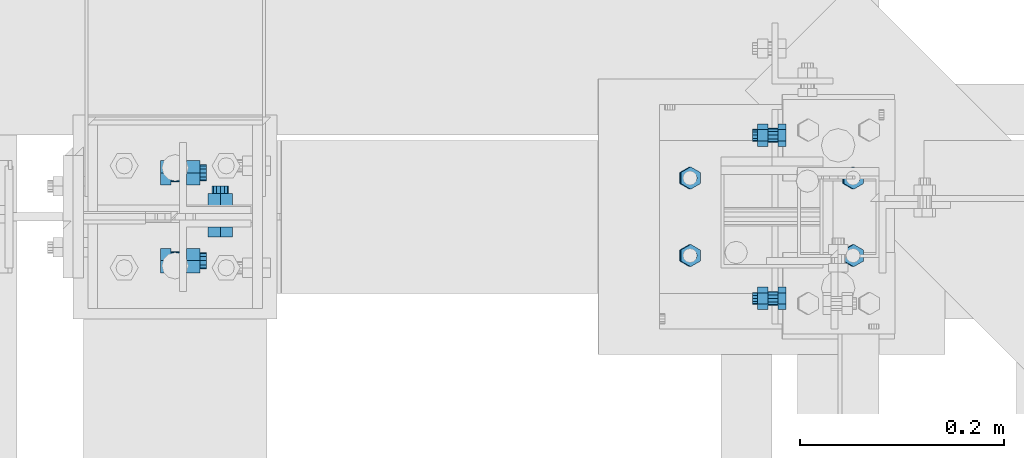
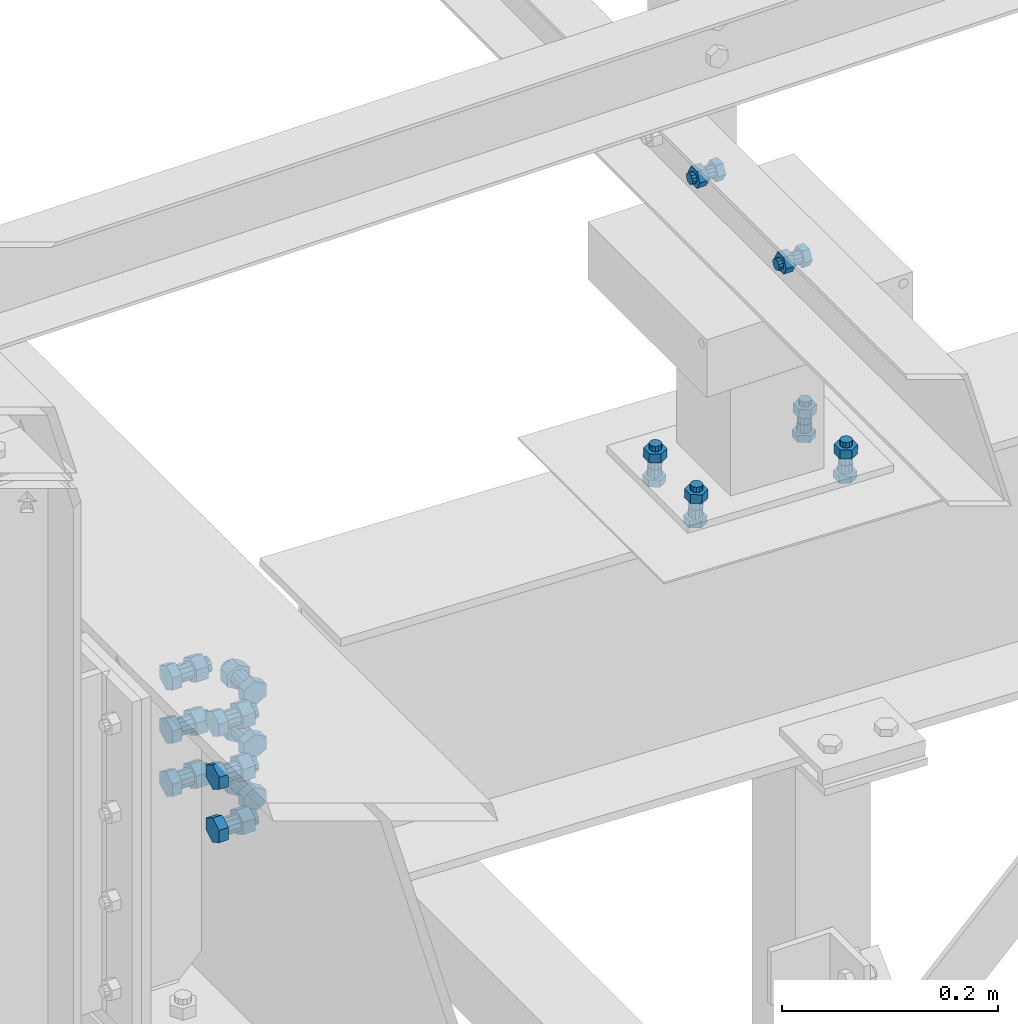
# One storey, part 3 of 3134: 5 mechanical fasteners, 3 elements without a shape of their own.
"""IFC2X3 building model written with IfcOpenShell, lengths in millimetres."""

from ifc_helpers import new_model, si_unit, frame, origin_with_axes, place, context, subcontext, project, spatial, faceted_brep, source, transform, mapped, material, type_object, element, aggregate, save


model = new_model("IFC2X3")

# Units and contexts
model_context = context("Model", 3, precision=1e-05, world=origin_with_axes())
body_context = subcontext(model_context, "Body", "Model", "MODEL_VIEW")
ifc_project = project(units=[si_unit("LENGTHUNIT", "METRE", prefix="MILLI"), si_unit("AREAUNIT", "SQUARE_METRE"), si_unit("VOLUMEUNIT", "CUBIC_METRE"), si_unit("MASSUNIT", "GRAM", prefix="KILO"), si_unit("TIMEUNIT", "SECOND"), si_unit("PLANEANGLEUNIT", "RADIAN"), si_unit("SOLIDANGLEUNIT", "STERADIAN"), si_unit("THERMODYNAMICTEMPERATUREUNIT", "DEGREE_CELSIUS"), si_unit("LUMINOUSINTENSITYUNIT", "LUMEN")], contexts=[model_context])

# Site, building, storey
site_placement = place(None, origin_with_axes())
site = spatial("IfcSite", under=ifc_project, at=site_placement, CompositionType="ELEMENT")
building_placement = place(site_placement, origin_with_axes())
building = spatial("IfcBuilding", under=site, at=building_placement, Name="Undefined", CompositionType="ELEMENT")
storey_placement = place(building_placement, origin_with_axes())
storey = spatial("IfcBuildingStorey", under=building, at=storey_placement, Name="Undefined", CompositionType="ELEMENT", Elevation=0.0)

# Assembly, mechanical fastener
assembly_1_placement = place(storey_placement, origin_with_axes())
assembly_1 = element("IfcElementAssembly", 1, at=assembly_1_placement, inside=storey, AssemblyPlace="NOTDEFINED", PredefinedType="RIGID_FRAME")
ifc_material = material(Name="8.8")
mechanical_fastener_type = type_object("IfcMechanicalFastenerType", Name="Bolt assembly")
shared_shape_1 = source(origin_with_axes(), body_context, "Body", "Brep", [
    faceted_brep([(10.9696551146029, -14.0, 0.0), (5.48482755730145, -14.0, 9.5), (-5.48482755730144, -14.0, 9.5), (-10.9696551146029, -14.0, 1.34339530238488e-15), (-5.48482755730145, -14.0, -9.5), (5.48482755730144, -14.0, -9.50000000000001), (5.48482755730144, -6.0, -9.50000000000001), (-5.48482755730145, -6.0, -9.5), (-10.9696551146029, -6.0, 1.34339530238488e-15), (-5.48482755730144, -6.0, 9.5), (5.48482755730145, -6.0, 9.5), (10.9696551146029, -6.0, 0.0), (6.0, -6.0, 0.0), (5.19615242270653, -6.0, 3.00000000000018), (2.99999999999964, -6.0, 5.19615242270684), (-6.21801588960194e-13, -6.0, 6.0), (-3.00000000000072, -6.0, 5.19615242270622), (-5.19615242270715, -6.0, 2.9999999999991), (-6.0, -6.0, -1.24360317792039e-12), (-5.19615242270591, -6.0, -3.00000000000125), (-2.99999999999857, -6.0, -5.19615242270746), (1.85874342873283e-12, -6.0, -6.0), (3.00000000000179, -6.0, -5.1961524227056), (5.19615242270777, -6.0, -2.99999999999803), (5.19615242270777, 19.0, -2.99999999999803), (3.00000000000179, 19.0, -5.1961524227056), (1.85874342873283e-12, 19.0, -6.0), (-2.99999999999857, 19.0, -5.19615242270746), (-5.19615242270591, 19.0, -3.00000000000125), (-6.0, 19.0, -1.24360317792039e-12), (-5.19615242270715, 19.0, 2.9999999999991), (-3.00000000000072, 19.0, 5.19615242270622), (-6.21801588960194e-13, 19.0, 6.0), (2.99999999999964, 19.0, 5.19615242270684), (5.19615242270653, 19.0, 3.00000000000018), (6.0, 19.0, 0.0), (10.9696551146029, 4.00000000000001, 0.0), (5.48482755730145, 4.00000000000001, 9.5), (-5.48482755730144, 4.00000000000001, 9.5), (-10.9696551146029, 4.00000000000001, 1.34339530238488e-15), (-5.48482755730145, 4.00000000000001, -9.5), (5.48482755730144, 4.00000000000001, -9.50000000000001), (5.48482755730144, 14.0, -9.50000000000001), (-5.48482755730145, 14.0, -9.5), (-10.9696551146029, 14.0, 1.34339530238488e-15), (-5.48482755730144, 14.0, 9.5), (5.48482755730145, 14.0, 9.5), (10.9696551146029, 14.0, 0.0)], [[[0, 1, 2, 3, 4, 5]], [[6, 7, 8, 9, 10, 11]], [[0, 11, 10, 1]], [[1, 10, 9, 2]], [[2, 9, 8, 3]], [[3, 8, 7, 4]], [[4, 7, 6, 5]], [[5, 6, 11, 0]], [[12, 13, 14, 15, 16, 17, 18, 19, 20, 21, 22, 23]], [[24, 25, 26, 27, 28, 29, 30, 31, 32, 33, 34, 35]], [[12, 35, 34, 13]], [[13, 34, 33, 14]], [[14, 33, 32, 15]], [[15, 32, 31, 16]], [[16, 31, 30, 17]], [[17, 30, 29, 18]], [[18, 29, 28, 19]], [[19, 28, 27, 20]], [[20, 27, 26, 21]], [[21, 26, 25, 22]], [[22, 25, 24, 23]], [[23, 24, 35, 12]], [[36, 37, 38, 39, 40, 41]], [[42, 43, 44, 45, 46, 47]], [[36, 47, 46, 37]], [[37, 46, 45, 38]], [[38, 45, 44, 39]], [[39, 44, 43, 40]], [[40, 43, 42, 41]], [[41, 42, 47, 36]]]),
    faceted_brep([(7.0, -0.1, 0.0), (6.06217782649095, -0.1, 3.50000000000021), (3.49999999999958, -0.1, 6.06217782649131), (-7.25435187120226e-13, -0.1, 7.0), (-3.50000000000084, -0.1, 6.06217782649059), (-6.06217782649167, -0.1, 3.49999999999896), (-7.0, -0.1, -1.45087037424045e-12), (-6.06217782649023, -0.1, -3.50000000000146), (-3.49999999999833, -0.1, -6.06217782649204), (2.1685340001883e-12, -0.1, -7.0), (3.50000000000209, -0.1, -6.06217782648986), (6.0621778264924, -0.1, -3.4999999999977), (6.0621778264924, 4.00000000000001, -3.4999999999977), (3.50000000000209, 4.00000000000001, -6.06217782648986), (2.1685340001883e-12, 4.00000000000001, -7.0), (-3.49999999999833, 4.00000000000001, -6.06217782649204), (-6.06217782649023, 4.00000000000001, -3.50000000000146), (-7.0, 4.00000000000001, -1.45087037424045e-12), (-6.06217782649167, 4.00000000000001, 3.49999999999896), (-3.50000000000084, 4.00000000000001, 6.06217782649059), (-7.25435187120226e-13, 4.00000000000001, 7.0), (3.49999999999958, 4.00000000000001, 6.06217782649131), (6.06217782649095, 4.00000000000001, 3.50000000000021), (7.0, 4.00000000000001, 0.0), (7.0, -5.9, 0.0), (6.06217782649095, -5.9, 3.50000000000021), (3.49999999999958, -5.9, 6.06217782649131), (-7.25435187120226e-13, -5.9, 7.0), (-3.50000000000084, -5.9, 6.06217782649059), (-6.06217782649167, -5.9, 3.49999999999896), (-7.0, -5.9, -1.45087037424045e-12), (-6.06217782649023, -5.9, -3.50000000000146), (-3.49999999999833, -5.9, -6.06217782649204), (2.1685340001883e-12, -5.9, -7.0), (3.50000000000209, -5.9, -6.06217782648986), (6.0621778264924, -5.9, -3.4999999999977), (6.0621778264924, 0.0999999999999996, -3.4999999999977), (3.50000000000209, 0.0999999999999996, -6.06217782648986), (2.1685340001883e-12, 0.0999999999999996, -7.0), (-3.49999999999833, 0.0999999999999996, -6.06217782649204), (-6.06217782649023, 0.0999999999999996, -3.50000000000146), (-7.0, 0.0999999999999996, -1.45087037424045e-12), (-6.06217782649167, 0.0999999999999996, 3.49999999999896), (-3.50000000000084, 0.0999999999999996, 6.06217782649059), (-7.25435187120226e-13, 0.0999999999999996, 7.0), (3.49999999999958, 0.0999999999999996, 6.06217782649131), (6.06217782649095, 0.0999999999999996, 3.50000000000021), (7.0, 0.0999999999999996, 0.0)], [[[0, 1, 2, 3, 4, 5, 6, 7, 8, 9, 10, 11]], [[12, 13, 14, 15, 16, 17, 18, 19, 20, 21, 22, 23]], [[0, 23, 22, 1]], [[1, 22, 21, 2]], [[2, 21, 20, 3]], [[3, 20, 19, 4]], [[4, 19, 18, 5]], [[5, 18, 17, 6]], [[6, 17, 16, 7]], [[7, 16, 15, 8]], [[8, 15, 14, 9]], [[9, 14, 13, 10]], [[10, 13, 12, 11]], [[11, 12, 23, 0]], [[24, 25, 26, 27, 28, 29, 30, 31, 32, 33, 34, 35]], [[36, 37, 38, 39, 40, 41, 42, 43, 44, 45, 46, 47]], [[24, 47, 46, 25]], [[25, 46, 45, 26]], [[26, 45, 44, 27]], [[27, 44, 43, 28]], [[28, 43, 42, 29]], [[29, 42, 41, 30]], [[30, 41, 40, 31]], [[31, 40, 39, 32]], [[32, 39, 38, 33]], [[33, 38, 37, 34]], [[34, 37, 36, 35]], [[35, 36, 47, 24]]]),
])
mechanical_fastener_1_placement = place(assembly_1_placement, frame((585.0, 10850.0, 4300.0), z_axis=(0.0, 0.0, 1.0), x_axis=(0.0, 1.0, 0.0)))
mechanical_fastener_1 = element("IfcMechanicalFastener", 2, at=mechanical_fastener_1_placement, type_object=mechanical_fastener_type, material=ifc_material, Name="Bolt assembly", NominalDiameter=12.0, NominalLength=25.0, context=body_context, shape_type="MappedRepresentation", body=[
    mapped(shared_shape_1, transform((0.0, 0.0, 0.0))),
    mapped(shared_shape_1, transform((160.0, 0.0, 0.0))),
])

assembly_2_placement = place(storey_placement, origin_with_axes())
assembly_2 = element("IfcElementAssembly", 3, at=assembly_2_placement, inside=storey, AssemblyPlace="NOTDEFINED", PredefinedType="RIGID_FRAME")
shared_shape_2 = source(origin_with_axes(), body_context, "Body", "Brep", [
    faceted_brep([(13.856406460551, -18.5936482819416, 0.0), (6.92820323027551, -18.5936482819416, 12.0), (-6.92820323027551, -18.5936482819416, 12.0), (-13.856406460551, -18.5936482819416, 1.69692038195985e-15), (-6.92820323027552, -18.5936482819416, -12.0), (6.9282032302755, -18.5936482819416, -12.0), (6.9282032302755, -8.59364828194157, -12.0), (-6.92820323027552, -8.59364828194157, -12.0), (-13.856406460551, -8.59364828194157, 1.69692038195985e-15), (-6.92820323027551, -8.59364828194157, 12.0), (6.92820323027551, -8.59364828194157, 12.0), (13.856406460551, -8.59364828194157, 0.0), (8.0, -8.59364828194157, 0.0), (6.92820323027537, -8.59364828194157, 4.00000000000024), (3.99999999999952, -8.59364828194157, 6.92820323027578), (-8.29068785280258e-13, -8.59364828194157, 8.0), (-4.00000000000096, -8.59364828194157, 6.92820323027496), (-6.9282032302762, -8.59364828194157, 3.99999999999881), (-8.0, -8.59364828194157, -1.65813757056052e-12), (-6.92820323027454, -8.59364828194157, -4.00000000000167), (-3.99999999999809, -8.59364828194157, -6.92820323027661), (2.47832457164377e-12, -8.59364828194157, -8.0), (4.00000000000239, -8.59364828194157, -6.92820323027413), (6.92820323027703, -8.59364828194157, -3.99999999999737), (6.92820323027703, 26.4063517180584, -3.99999999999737), (4.00000000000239, 26.4063517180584, -6.92820323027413), (2.47832457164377e-12, 26.4063517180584, -8.0), (-3.99999999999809, 26.4063517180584, -6.92820323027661), (-6.92820323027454, 26.4063517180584, -4.00000000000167), (-8.0, 26.4063517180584, -1.65813757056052e-12), (-6.9282032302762, 26.4063517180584, 3.99999999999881), (-4.00000000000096, 26.4063517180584, 6.92820323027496), (-8.29068785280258e-13, 26.4063517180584, 8.0), (3.99999999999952, 26.4063517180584, 6.92820323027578), (6.92820323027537, 26.4063517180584, 4.00000000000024), (8.0, 26.4063517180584, 0.0), (13.856406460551, 7.0, 0.0), (6.92820323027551, 7.0, 12.0), (-6.92820323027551, 7.0, 12.0), (-13.856406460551, 7.0, 1.69692038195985e-15), (-6.92820323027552, 7.0, -12.0), (6.9282032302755, 7.0, -12.0), (6.9282032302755, 20.0, -12.0), (-6.92820323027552, 20.0, -12.0), (-13.856406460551, 20.0, 1.69692038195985e-15), (-6.92820323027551, 20.0, 12.0), (6.92820323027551, 20.0, 12.0), (13.856406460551, 20.0, 0.0)], [[[0, 1, 2, 3, 4, 5]], [[6, 7, 8, 9, 10, 11]], [[0, 11, 10, 1]], [[1, 10, 9, 2]], [[2, 9, 8, 3]], [[3, 8, 7, 4]], [[4, 7, 6, 5]], [[5, 6, 11, 0]], [[12, 13, 14, 15, 16, 17, 18, 19, 20, 21, 22, 23]], [[24, 25, 26, 27, 28, 29, 30, 31, 32, 33, 34, 35]], [[12, 35, 34, 13]], [[13, 34, 33, 14]], [[14, 33, 32, 15]], [[15, 32, 31, 16]], [[16, 31, 30, 17]], [[17, 30, 29, 18]], [[18, 29, 28, 19]], [[19, 28, 27, 20]], [[20, 27, 26, 21]], [[21, 26, 25, 22]], [[22, 25, 24, 23]], [[23, 24, 35, 12]], [[36, 37, 38, 39, 40, 41]], [[42, 43, 44, 45, 46, 47]], [[36, 47, 46, 37]], [[37, 46, 45, 38]], [[38, 45, 44, 39]], [[39, 44, 43, 40]], [[40, 43, 42, 41]], [[41, 42, 47, 36]]]),
    faceted_brep([(9.0, -8.49364828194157, 0.0), (7.79422863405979, -8.49364828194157, 4.50000000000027), (4.49999999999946, -8.49364828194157, 7.79422863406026), (-9.3270238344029e-13, -8.49364828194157, 9.0), (-4.50000000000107, -8.49364828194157, 7.79422863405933), (-7.79422863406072, -8.49364828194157, 4.49999999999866), (-9.0, -8.49364828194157, -1.86540476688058e-12), (-7.79422863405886, -8.49364828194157, -4.50000000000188), (-4.49999999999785, -8.49364828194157, -7.79422863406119), (2.78811514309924e-12, -8.49364828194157, -9.0), (4.50000000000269, -8.49364828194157, -7.7942286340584), (7.79422863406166, -8.49364828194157, -4.49999999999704), (7.79422863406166, 0.10635209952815, -4.49999999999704), (4.50000000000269, 0.10635209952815, -7.7942286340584), (2.78811514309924e-12, 0.10635209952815, -9.0), (-4.49999999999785, 0.10635209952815, -7.79422863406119), (-7.79422863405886, 0.10635209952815, -4.50000000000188), (-9.0, 0.10635209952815, -1.86540476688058e-12), (-7.79422863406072, 0.10635209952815, 4.49999999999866), (-4.50000000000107, 0.10635209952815, 7.79422863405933), (-9.3270238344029e-13, 0.10635209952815, 9.0), (4.49999999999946, 0.10635209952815, 7.79422863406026), (7.79422863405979, 0.10635209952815, 4.50000000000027), (9.0, 0.10635209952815, 0.0), (9.0, -0.1, 0.0), (7.79422863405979, -0.1, 4.50000000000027), (4.49999999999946, -0.1, 7.79422863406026), (-9.3270238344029e-13, -0.1, 9.0), (-4.50000000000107, -0.1, 7.79422863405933), (-7.79422863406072, -0.1, 4.49999999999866), (-9.0, -0.1, -1.86540476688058e-12), (-7.79422863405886, -0.1, -4.50000000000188), (-4.49999999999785, -0.1, -7.79422863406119), (2.78811514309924e-12, -0.1, -9.0), (4.50000000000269, -0.1, -7.7942286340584), (7.79422863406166, -0.1, -4.49999999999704), (7.79422863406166, 7.0, -4.49999999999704), (4.50000000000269, 7.0, -7.7942286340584), (2.78811514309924e-12, 7.0, -9.0), (-4.49999999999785, 7.0, -7.79422863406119), (-7.79422863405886, 7.0, -4.50000000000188), (-9.0, 7.0, -1.86540476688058e-12), (-7.79422863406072, 7.0, 4.49999999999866), (-4.50000000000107, 7.0, 7.79422863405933), (-9.3270238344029e-13, 7.0, 9.0), (4.49999999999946, 7.0, 7.79422863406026), (7.79422863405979, 7.0, 4.50000000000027), (9.0, 7.0, 0.0)], [[[0, 1, 2, 3, 4, 5, 6, 7, 8, 9, 10, 11]], [[12, 13, 14, 15, 16, 17, 18, 19, 20, 21, 22, 23]], [[0, 23, 22, 1]], [[1, 22, 21, 2]], [[2, 21, 20, 3]], [[3, 20, 19, 4]], [[4, 19, 18, 5]], [[5, 18, 17, 6]], [[6, 17, 16, 7]], [[7, 16, 15, 8]], [[8, 15, 14, 9]], [[9, 14, 13, 10]], [[10, 13, 12, 11]], [[11, 12, 23, 0]], [[24, 25, 26, 27, 28, 29, 30, 31, 32, 33, 34, 35]], [[36, 37, 38, 39, 40, 41, 42, 43, 44, 45, 46, 47]], [[24, 47, 46, 25]], [[25, 46, 45, 26]], [[26, 45, 44, 27]], [[27, 44, 43, 28]], [[28, 43, 42, 29]], [[29, 42, 41, 30]], [[30, 41, 40, 31]], [[31, 40, 39, 32]], [[32, 39, 38, 33]], [[33, 38, 37, 34]], [[34, 37, 36, 35]], [[35, 36, 47, 24]]]),
])
mechanical_fastener_2_placement = place(assembly_2_placement, frame((4.29364809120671, 10973.04, 3841.86727512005), z_axis=(0.0, 1.0, 0.0), x_axis=(0.0, 0.0, 1.0)))
mechanical_fastener_2 = element("IfcMechanicalFastener", 4, at=mechanical_fastener_2_placement, type_object=mechanical_fastener_type, material=ifc_material, Name="Bolt assembly", NominalDiameter=16.0, NominalLength=35.0, context=body_context, shape_type="MappedRepresentation", body=[
    mapped(shared_shape_2, transform((0.0, 0.0, 0.0))),
    mapped(shared_shape_2, transform((59.9999999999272, 0.0, 5.40239852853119e-10))),
    mapped(shared_shape_2, transform((120.0, 0.0, 0.0))),
])
aggregate(assembly_2, [mechanical_fastener_2])

# Assembly, mechanical fasteners
assembly_3_placement = place(storey_placement, origin_with_axes())
assembly_3 = element("IfcElementAssembly", 5, at=assembly_3_placement, inside=storey, AssemblyPlace="NOTDEFINED", PredefinedType="RIGID_FRAME")
mechanical_fastener_3_placement = place(assembly_3_placement, frame((4.29364809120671, 10886.96, 3841.86727512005), z_axis=(0.0, 1.0, 0.0), x_axis=(0.0, 0.0, 1.0)))
mechanical_fastener_3 = element("IfcMechanicalFastener", 6, at=mechanical_fastener_3_placement, type_object=mechanical_fastener_type, material=ifc_material, Name="Bolt assembly", NominalDiameter=16.0, NominalLength=35.0, context=body_context, shape_type="MappedRepresentation", body=[
    mapped(shared_shape_2, transform((0.0, 0.0, 0.0))),
    mapped(shared_shape_2, transform((59.9999999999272, 0.0, 5.40239852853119e-10))),
    mapped(shared_shape_2, transform((120.0, 0.0, 0.0))),
])
shared_shape_3 = source(origin_with_axes(), body_context, "Body", "Brep", [
    faceted_brep([(13.856406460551, -20.0400000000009, 0.0), (6.92820323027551, -20.0400000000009, 12.0), (-6.92820323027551, -20.0400000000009, 12.0), (-13.856406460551, -20.0400000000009, 1.69692038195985e-15), (-6.92820323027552, -20.0400000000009, -12.0), (6.9282032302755, -20.0400000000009, -12.0), (6.9282032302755, -10.0400000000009, -12.0), (-6.92820323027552, -10.0400000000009, -12.0), (-13.856406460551, -10.0400000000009, 1.69692038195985e-15), (-6.92820323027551, -10.0400000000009, 12.0), (6.92820323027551, -10.0400000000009, 12.0), (13.856406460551, -10.0400000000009, 0.0), (8.0, -10.0400000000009, 0.0), (6.92820323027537, -10.0400000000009, 4.00000000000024), (3.99999999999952, -10.0400000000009, 6.92820323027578), (-8.29068785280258e-13, -10.0400000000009, 8.0), (-4.00000000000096, -10.0400000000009, 6.92820323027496), (-6.9282032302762, -10.0400000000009, 3.99999999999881), (-8.0, -10.0400000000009, -1.65813757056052e-12), (-6.92820323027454, -10.0400000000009, -4.00000000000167), (-3.99999999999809, -10.0400000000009, -6.92820323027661), (2.47832457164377e-12, -10.0400000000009, -8.0), (4.00000000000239, -10.0400000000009, -6.92820323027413), (6.92820323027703, -10.0400000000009, -3.99999999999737), (6.92820323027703, 29.9599999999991, -3.99999999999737), (4.00000000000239, 29.9599999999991, -6.92820323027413), (2.47832457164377e-12, 29.9599999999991, -8.0), (-3.99999999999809, 29.9599999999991, -6.92820323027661), (-6.92820323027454, 29.9599999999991, -4.00000000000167), (-8.0, 29.9599999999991, -1.65813757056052e-12), (-6.9282032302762, 29.9599999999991, 3.99999999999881), (-4.00000000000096, 29.9599999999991, 6.92820323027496), (-8.29068785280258e-13, 29.9599999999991, 8.0), (3.99999999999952, 29.9599999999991, 6.92820323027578), (6.92820323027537, 29.9599999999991, 4.00000000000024), (8.0, 29.9599999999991, 0.0), (13.856406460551, 10.0400000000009, 0.0), (6.92820323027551, 10.0400000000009, 12.0), (-6.92820323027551, 10.0400000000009, 12.0), (-13.856406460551, 10.0400000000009, 1.69692038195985e-15), (-6.92820323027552, 10.0400000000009, -12.0), (6.9282032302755, 10.0400000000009, -12.0), (6.9282032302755, 23.0400000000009, -12.0), (-6.92820323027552, 23.0400000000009, -12.0), (-13.856406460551, 23.0400000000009, 1.69692038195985e-15), (-6.92820323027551, 23.0400000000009, 12.0), (6.92820323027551, 23.0400000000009, 12.0), (13.856406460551, 23.0400000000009, 0.0)], [[[0, 1, 2, 3, 4, 5]], [[6, 7, 8, 9, 10, 11]], [[0, 11, 10, 1]], [[1, 10, 9, 2]], [[2, 9, 8, 3]], [[3, 8, 7, 4]], [[4, 7, 6, 5]], [[5, 6, 11, 0]], [[12, 13, 14, 15, 16, 17, 18, 19, 20, 21, 22, 23]], [[24, 25, 26, 27, 28, 29, 30, 31, 32, 33, 34, 35]], [[12, 35, 34, 13]], [[13, 34, 33, 14]], [[14, 33, 32, 15]], [[15, 32, 31, 16]], [[16, 31, 30, 17]], [[17, 30, 29, 18]], [[18, 29, 28, 19]], [[19, 28, 27, 20]], [[20, 27, 26, 21]], [[21, 26, 25, 22]], [[22, 25, 24, 23]], [[23, 24, 35, 12]], [[36, 37, 38, 39, 40, 41]], [[42, 43, 44, 45, 46, 47]], [[36, 47, 46, 37]], [[37, 46, 45, 38]], [[38, 45, 44, 39]], [[39, 44, 43, 40]], [[40, 43, 42, 41]], [[41, 42, 47, 36]]]),
    faceted_brep([(9.0, -3.04999995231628, 0.0), (7.79422863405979, -3.04999995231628, 4.50000000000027), (4.49999999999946, -3.04999995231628, 7.79422863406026), (-9.3270238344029e-13, -3.04999995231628, 9.0), (-4.50000000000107, -3.04999995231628, 7.79422863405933), (-7.79422863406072, -3.04999995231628, 4.49999999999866), (-9.0, -3.04999995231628, -1.86540476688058e-12), (-7.79422863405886, -3.04999995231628, -4.50000000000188), (-4.49999999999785, -3.04999995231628, -7.79422863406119), (2.78811514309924e-12, -3.04999995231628, -9.0), (4.50000000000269, -3.04999995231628, -7.7942286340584), (7.79422863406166, -3.04999995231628, -4.49999999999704), (7.79422863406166, 3.04999995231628, -4.49999999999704), (4.50000000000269, 3.04999995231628, -7.7942286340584), (2.78811514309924e-12, 3.04999995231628, -9.0), (-4.49999999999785, 3.04999995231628, -7.79422863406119), (-7.79422863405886, 3.04999995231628, -4.50000000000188), (-9.0, 3.04999995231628, -1.86540476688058e-12), (-7.79422863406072, 3.04999995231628, 4.49999999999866), (-4.50000000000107, 3.04999995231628, 7.79422863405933), (-9.3270238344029e-13, 3.04999995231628, 9.0), (4.49999999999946, 3.04999995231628, 7.79422863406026), (7.79422863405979, 3.04999995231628, 4.50000000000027), (9.0, 3.04999995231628, 0.0), (9.0, -9.94000000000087, 0.0), (7.79422863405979, -9.94000000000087, 4.50000000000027), (4.49999999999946, -9.94000000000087, 7.79422863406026), (-9.3270238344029e-13, -9.94000000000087, 9.0), (-4.50000000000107, -9.94000000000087, 7.79422863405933), (-7.79422863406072, -9.94000000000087, 4.49999999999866), (-9.0, -9.94000000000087, -1.86540476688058e-12), (-7.79422863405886, -9.94000000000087, -4.50000000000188), (-4.49999999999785, -9.94000000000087, -7.79422863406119), (2.78811514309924e-12, -9.94000000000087, -9.0), (4.50000000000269, -9.94000000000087, -7.7942286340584), (7.79422863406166, -9.94000000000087, -4.49999999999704), (7.79422863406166, -2.94000000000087, -4.49999999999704), (4.50000000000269, -2.94000000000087, -7.7942286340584), (2.78811514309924e-12, -2.94000000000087, -9.0), (-4.49999999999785, -2.94000000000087, -7.79422863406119), (-7.79422863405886, -2.94000000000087, -4.50000000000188), (-9.0, -2.94000000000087, -1.86540476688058e-12), (-7.79422863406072, -2.94000000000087, 4.49999999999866), (-4.50000000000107, -2.94000000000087, 7.79422863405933), (-9.3270238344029e-13, -2.94000000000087, 9.0), (4.49999999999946, -2.94000000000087, 7.79422863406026), (7.79422863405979, -2.94000000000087, 4.50000000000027), (9.0, -2.94000000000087, 0.0), (9.0, 2.94000000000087, 0.0), (7.79422863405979, 2.94000000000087, 4.50000000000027), (4.49999999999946, 2.94000000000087, 7.79422863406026), (-9.3270238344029e-13, 2.94000000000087, 9.0), (-4.50000000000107, 2.94000000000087, 7.79422863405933), (-7.79422863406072, 2.94000000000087, 4.49999999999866), (-9.0, 2.94000000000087, -1.86540476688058e-12), (-7.79422863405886, 2.94000000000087, -4.50000000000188), (-4.49999999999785, 2.94000000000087, -7.79422863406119), (2.78811514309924e-12, 2.94000000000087, -9.0), (4.50000000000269, 2.94000000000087, -7.7942286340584), (7.79422863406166, 2.94000000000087, -4.49999999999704), (7.79422863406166, 10.0400000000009, -4.49999999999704), (4.50000000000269, 10.0400000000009, -7.7942286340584), (2.78811514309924e-12, 10.0400000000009, -9.0), (-4.49999999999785, 10.0400000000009, -7.79422863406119), (-7.79422863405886, 10.0400000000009, -4.50000000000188), (-9.0, 10.0400000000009, -1.86540476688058e-12), (-7.79422863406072, 10.0400000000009, 4.49999999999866), (-4.50000000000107, 10.0400000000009, 7.79422863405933), (-9.3270238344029e-13, 10.0400000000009, 9.0), (4.49999999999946, 10.0400000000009, 7.79422863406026), (7.79422863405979, 10.0400000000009, 4.50000000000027), (9.0, 10.0400000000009, 0.0)], [[[0, 1, 2, 3, 4, 5, 6, 7, 8, 9, 10, 11]], [[12, 13, 14, 15, 16, 17, 18, 19, 20, 21, 22, 23]], [[0, 23, 22, 1]], [[1, 22, 21, 2]], [[2, 21, 20, 3]], [[3, 20, 19, 4]], [[4, 19, 18, 5]], [[5, 18, 17, 6]], [[6, 17, 16, 7]], [[7, 16, 15, 8]], [[8, 15, 14, 9]], [[9, 14, 13, 10]], [[10, 13, 12, 11]], [[11, 12, 23, 0]], [[24, 25, 26, 27, 28, 29, 30, 31, 32, 33, 34, 35]], [[36, 37, 38, 39, 40, 41, 42, 43, 44, 45, 46, 47]], [[24, 47, 46, 25]], [[25, 46, 45, 26]], [[26, 45, 44, 27]], [[27, 44, 43, 28]], [[28, 43, 42, 29]], [[29, 42, 41, 30]], [[30, 41, 40, 31]], [[31, 40, 39, 32]], [[32, 39, 38, 33]], [[33, 38, 37, 34]], [[34, 37, 36, 35]], [[35, 36, 47, 24]], [[48, 49, 50, 51, 52, 53, 54, 55, 56, 57, 58, 59]], [[60, 61, 62, 63, 64, 65, 66, 67, 68, 69, 70, 71]], [[48, 71, 70, 49]], [[49, 70, 69, 50]], [[50, 69, 68, 51]], [[51, 68, 67, 52]], [[52, 67, 66, 53]], [[53, 66, 65, 54]], [[54, 65, 64, 55]], [[55, 64, 63, 56]], [[56, 63, 62, 57]], [[57, 62, 61, 58]], [[58, 61, 60, 59]], [[59, 60, 71, 48]]]),
])
mechanical_fastener_4_placement = place(assembly_3_placement, frame((44.2936480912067, 10930.0, 3841.86727512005), z_axis=(-1.0, 0.0, 0.0), x_axis=(0.0, 0.0, 1.0)))
mechanical_fastener_4 = element("IfcMechanicalFastener", 7, at=mechanical_fastener_4_placement, type_object=mechanical_fastener_type, material=ifc_material, Name="Bolt assembly", NominalDiameter=16.0, NominalLength=40.0, context=body_context, shape_type="MappedRepresentation", body=[
    mapped(shared_shape_3, transform((0.0, 0.0, 0.0))),
    mapped(shared_shape_3, transform((59.9999999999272, 0.0, 5.40239852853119e-10))),
    mapped(shared_shape_3, transform((120.0, 0.0, 0.0))),
])
aggregate(assembly_3, [mechanical_fastener_3, mechanical_fastener_4])

# Mechanical fastener
shared_shape_4 = source(origin_with_axes(), body_context, "Body", "Brep", [
    faceted_brep([(10.9696551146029, -4.19442685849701, 0.0), (5.48482755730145, -4.19442685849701, 9.5), (-5.48482755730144, -4.19442685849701, 9.5), (-10.9696551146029, -4.19442685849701, 1.34339530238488e-15), (-5.48482755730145, -4.19442685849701, -9.5), (5.48482755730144, -4.19442685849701, -9.50000000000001), (5.48482755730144, 3.80557314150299, -9.50000000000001), (-5.48482755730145, 3.80557314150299, -9.5), (-10.9696551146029, 3.80557314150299, 1.34339530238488e-15), (-5.48482755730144, 3.80557314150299, 9.5), (5.48482755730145, 3.80557314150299, 9.5), (10.9696551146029, 3.80557314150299, 0.0), (6.0, 3.80557314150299, 0.0), (5.19615242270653, 3.80557314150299, 3.00000000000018), (2.99999999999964, 3.80557314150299, 5.19615242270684), (-6.21801588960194e-13, 3.80557314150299, 6.0), (-3.00000000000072, 3.80557314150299, 5.19615242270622), (-5.19615242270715, 3.80557314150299, 2.9999999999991), (-6.0, 3.80557314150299, -1.24360317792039e-12), (-5.19615242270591, 3.80557314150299, -3.00000000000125), (-2.99999999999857, 3.80557314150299, -5.19615242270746), (1.85874342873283e-12, 3.80557314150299, -6.0), (3.00000000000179, 3.80557314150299, -5.1961524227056), (5.19615242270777, 3.80557314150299, -2.99999999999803), (5.19615242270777, 38.805573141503, -2.99999999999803), (3.00000000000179, 38.805573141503, -5.1961524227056), (1.85874342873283e-12, 38.805573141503, -6.0), (-2.99999999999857, 38.805573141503, -5.19615242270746), (-5.19615242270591, 38.805573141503, -3.00000000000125), (-6.0, 38.805573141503, -1.24360317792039e-12), (-5.19615242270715, 38.805573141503, 2.9999999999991), (-3.00000000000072, 38.805573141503, 5.19615242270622), (-6.21801588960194e-13, 38.805573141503, 6.0), (2.99999999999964, 38.805573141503, 5.19615242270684), (5.19615242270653, 38.805573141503, 3.00000000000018), (6.0, 38.805573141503, 0.0), (10.9696551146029, 23.0139082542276, 0.0), (5.48482755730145, 23.0139082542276, 9.5), (-5.48482755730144, 23.0139082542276, 9.5), (-10.9696551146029, 23.0139082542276, 1.34339530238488e-15), (-5.48482755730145, 23.0139082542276, -9.5), (5.48482755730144, 23.0139082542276, -9.50000000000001), (5.48482755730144, 33.0139082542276, -9.50000000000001), (-5.48482755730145, 33.0139082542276, -9.5), (-10.9696551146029, 33.0139082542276, 1.34339530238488e-15), (-5.48482755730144, 33.0139082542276, 9.5), (5.48482755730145, 33.0139082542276, 9.5), (10.9696551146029, 33.0139082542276, 0.0)], [[[0, 1, 2, 3, 4, 5]], [[6, 7, 8, 9, 10, 11]], [[0, 11, 10, 1]], [[1, 10, 9, 2]], [[2, 9, 8, 3]], [[3, 8, 7, 4]], [[4, 7, 6, 5]], [[5, 6, 11, 0]], [[12, 13, 14, 15, 16, 17, 18, 19, 20, 21, 22, 23]], [[24, 25, 26, 27, 28, 29, 30, 31, 32, 33, 34, 35]], [[12, 35, 34, 13]], [[13, 34, 33, 14]], [[14, 33, 32, 15]], [[15, 32, 31, 16]], [[16, 31, 30, 17]], [[17, 30, 29, 18]], [[18, 29, 28, 19]], [[19, 28, 27, 20]], [[20, 27, 26, 21]], [[21, 26, 25, 22]], [[22, 25, 24, 23]], [[23, 24, 35, 12]], [[36, 37, 38, 39, 40, 41]], [[42, 43, 44, 45, 46, 47]], [[36, 47, 46, 37]], [[37, 46, 45, 38]], [[38, 45, 44, 39]], [[39, 44, 43, 40]], [[40, 43, 42, 41]], [[41, 42, 47, 36]]]),
    faceted_brep([(7.0, 3.90557314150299, 0.0), (6.06217782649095, 3.90557314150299, 3.50000000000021), (3.49999999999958, 3.90557314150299, 6.06217782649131), (-7.25435187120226e-13, 3.90557314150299, 7.0), (-3.50000000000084, 3.90557314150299, 6.06217782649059), (-6.06217782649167, 3.90557314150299, 3.49999999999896), (-7.0, 3.90557314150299, -1.45087037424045e-12), (-6.06217782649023, 3.90557314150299, -3.50000000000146), (-3.49999999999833, 3.90557314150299, -6.06217782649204), (2.1685340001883e-12, 3.90557314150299, -7.0), (3.50000000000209, 3.90557314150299, -6.06217782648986), (6.0621778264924, 3.90557314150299, -3.4999999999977), (6.0621778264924, 13.1055729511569, -3.4999999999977), (3.50000000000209, 13.1055729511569, -6.06217782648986), (2.1685340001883e-12, 13.1055729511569, -7.0), (-3.49999999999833, 13.1055729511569, -6.06217782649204), (-6.06217782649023, 13.1055729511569, -3.50000000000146), (-7.0, 13.1055729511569, -1.45087037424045e-12), (-6.06217782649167, 13.1055729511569, 3.49999999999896), (-3.50000000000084, 13.1055729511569, 6.06217782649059), (-7.25435187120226e-13, 13.1055729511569, 7.0), (3.49999999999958, 13.1055729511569, 6.06217782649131), (6.06217782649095, 13.1055729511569, 3.50000000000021), (7.0, 13.1055729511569, 0.0), (7.0, 14.9139082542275, 0.0), (6.06217782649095, 14.9139082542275, 3.50000000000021), (3.49999999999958, 14.9139082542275, 6.06217782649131), (-7.25435187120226e-13, 14.9139082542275, 7.0), (-3.50000000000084, 14.9139082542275, 6.06217782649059), (-6.06217782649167, 14.9139082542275, 3.49999999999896), (-7.0, 14.9139082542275, -1.45087037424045e-12), (-6.06217782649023, 14.9139082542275, -3.50000000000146), (-3.49999999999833, 14.9139082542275, -6.06217782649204), (2.1685340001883e-12, 14.9139082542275, -7.0), (3.50000000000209, 14.9139082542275, -6.06217782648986), (6.0621778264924, 14.9139082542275, -3.4999999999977), (6.0621778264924, 23.0139082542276, -3.4999999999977), (3.50000000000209, 23.0139082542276, -6.06217782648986), (2.1685340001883e-12, 23.0139082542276, -7.0), (-3.49999999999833, 23.0139082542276, -6.06217782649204), (-6.06217782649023, 23.0139082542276, -3.50000000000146), (-7.0, 23.0139082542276, -1.45087037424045e-12), (-6.06217782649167, 23.0139082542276, 3.49999999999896), (-3.50000000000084, 23.0139082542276, 6.06217782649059), (-7.25435187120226e-13, 23.0139082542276, 7.0), (3.49999999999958, 23.0139082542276, 6.06217782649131), (6.06217782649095, 23.0139082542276, 3.50000000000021), (7.0, 23.0139082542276, 0.0)], [[[0, 1, 2, 3, 4, 5, 6, 7, 8, 9, 10, 11]], [[12, 13, 14, 15, 16, 17, 18, 19, 20, 21, 22, 23]], [[0, 23, 22, 1]], [[1, 22, 21, 2]], [[2, 21, 20, 3]], [[3, 20, 19, 4]], [[4, 19, 18, 5]], [[5, 18, 17, 6]], [[6, 17, 16, 7]], [[7, 16, 15, 8]], [[8, 15, 14, 9]], [[9, 14, 13, 10]], [[10, 13, 12, 11]], [[11, 12, 23, 0]], [[24, 25, 26, 27, 28, 29, 30, 31, 32, 33, 34, 35]], [[36, 37, 38, 39, 40, 41, 42, 43, 44, 45, 46, 47]], [[24, 47, 46, 25]], [[25, 46, 45, 26]], [[26, 45, 44, 27]], [[27, 44, 43, 28]], [[28, 43, 42, 29]], [[29, 42, 41, 30]], [[30, 41, 40, 31]], [[31, 40, 39, 32]], [[32, 39, 38, 33]], [[33, 38, 37, 34]], [[34, 37, 36, 35]], [[35, 36, 47, 24]]]),
])
mechanical_fastener_5_placement = place(assembly_1_placement, frame((584.193186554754, 10967.9999999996, 4006.54000668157), z_axis=(-0.999387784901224, 0.0, 0.0349865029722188), x_axis=(0.0, -1.0, 0.0)))
mechanical_fastener_5 = element("IfcMechanicalFastener", 8, at=mechanical_fastener_5_placement, type_object=mechanical_fastener_type, material=ifc_material, Name="Bolt assembly", NominalDiameter=12.0, NominalLength=35.0, context=body_context, shape_type="MappedRepresentation", body=[
    mapped(shared_shape_4, transform((0.0, -5.32963895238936e-10, -79.9999999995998))),
    mapped(shared_shape_4, transform((76.0, -5.32963895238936e-10, -79.9999999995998))),
    mapped(shared_shape_4, transform((0.0, 5.3114490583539e-10, 79.9999999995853))),
    mapped(shared_shape_4, transform((76.0, 5.3114490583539e-10, 79.9999999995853))),
])

aggregate(assembly_1, [mechanical_fastener_5, mechanical_fastener_1])

save(model, "model.ifc")
